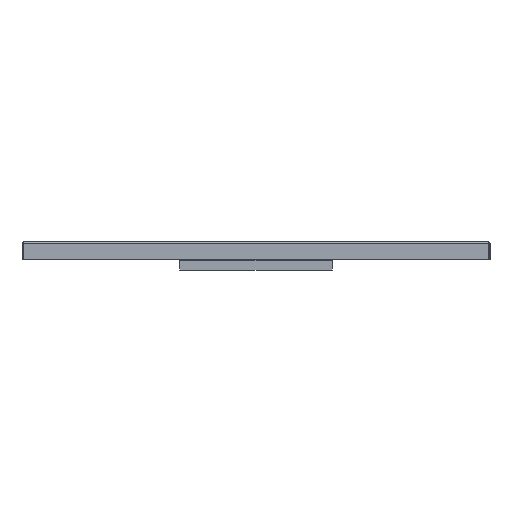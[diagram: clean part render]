
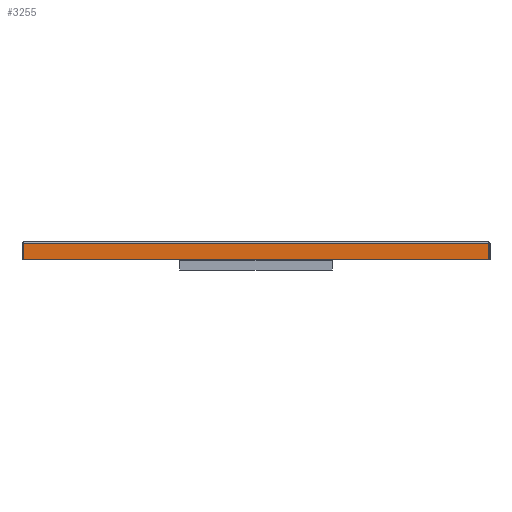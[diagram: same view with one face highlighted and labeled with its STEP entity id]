
A CAD part, left-side view. The second image highlights one B-rep face of the part: STEP entity #3255.
In plain terms, the highlighted planar face has unit normal (-1, 0, 0).
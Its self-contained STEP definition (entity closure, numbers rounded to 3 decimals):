
#70 = CARTESIAN_POINT ( 'NONE',  ( -84.056, 886.93, -2.006 ) ) ;
#95 = CARTESIAN_POINT ( 'NONE',  ( -84.056, 862.688, -2.053 ) ) ;
#123 = CARTESIAN_POINT ( 'NONE',  ( -84.056, 888.93, 0. ) ) ;
#349 = VECTOR ( 'NONE', #1320, 1000. ) ;
#800 = CARTESIAN_POINT ( 'NONE',  ( -84.056, 882.208, -2.013 ) ) ;
#857 = CARTESIAN_POINT ( 'NONE',  ( -84.056, 550.858, -2.072 ) ) ;
#919 = VERTEX_POINT ( 'NONE', #70 ) ;
#947 = FACE_OUTER_BOUND ( 'NONE', #7778, .T. ) ;
#1013 = VERTEX_POINT ( 'NONE', #8309 ) ;
#1036 = CARTESIAN_POINT ( 'NONE',  ( -84.056, 824.334, -2.09 ) ) ;
#1101 = CARTESIAN_POINT ( 'NONE',  ( -84.056, 95.682, -2.013 ) ) ;
#1320 = DIRECTION ( 'NONE',  ( 0., 0., 1. ) ) ;
#2114 = CARTESIAN_POINT ( 'NONE',  ( -84.056, 90.93, -2.006 ) ) ;
#2445 = VECTOR ( 'NONE', #7225, 1000. ) ;
#2464 = EDGE_CURVE ( 'NONE', #1013, #919, #4036, .T. ) ;
#2595 = LINE ( 'NONE', #5288, #2445 ) ;
#2879 = CARTESIAN_POINT ( 'NONE',  ( -84.056, 886.93, -2.006 ) ) ;
#2903 = EDGE_CURVE ( 'NONE', #919, #11223, #3524, .T. ) ;
#3255 = ADVANCED_FACE ( 'NONE', ( #947 ), #4543, .F. ) ;
#3524 = B_SPLINE_CURVE_WITH_KNOTS ( 'NONE', 3,
 ( #2879, #10802, #800, #7977, #95, #9037, #1036, #10739, #4393, #8034, #8920, #857, #11628, #3579, #10329, #5757, #7633, #7397, #8272, #5815, #9386, #1101, #10989, #2114 ),
 .UNSPECIFIED., .F., .F.,
 ( 4, 1, 1, 1, 1, 1, 1, 1, 1, 1, 1, 1, 1, 1, 1, 1, 1, 1, 1, 1, 1, 4 ),
 ( 2., 6.056, 12.112, 24.224, 42.391, 66.615, 84.783, 102.95, 148.37, 202.873, 311.88, 499.465, 629.633, 678.309, 702.647, 726.986, 751.324, 763.493, 781.746, 787.831, 793.916, 798. ),
 .UNSPECIFIED. ) ;
#3579 = CARTESIAN_POINT ( 'NONE',  ( -84.056, 286.462, -2.074 ) ) ;
#3622 = ORIENTED_EDGE ( 'NONE', *, *, #8484, .F. ) ;
#3640 = DIRECTION ( 'NONE',  ( 0., 0., -1. ) ) ;
#3720 = DIRECTION ( 'NONE',  ( 1., 0., 0. ) ) ;
#4036 = LINE ( 'NONE', #11324, #349 ) ;
#4393 = CARTESIAN_POINT ( 'NONE',  ( -84.056, 776.896, -2.08 ) ) ;
#4543 = PLANE ( 'NONE',  #5224 ) ;
#5224 = AXIS2_PLACEMENT_3D ( 'NONE', #123, #3720, #7301 ) ;
#5288 = CARTESIAN_POINT ( 'NONE',  ( -84.056, 90.93, -30. ) ) ;
#5757 = CARTESIAN_POINT ( 'NONE',  ( -84.056, 186.283, -2.082 ) ) ;
#5815 = CARTESIAN_POINT ( 'NONE',  ( -84.056, 111.24, -2.045 ) ) ;
#6332 = CARTESIAN_POINT ( 'NONE',  ( -84.056, 90.93, -30. ) ) ;
#6523 = LINE ( 'NONE', #8098, #6762 ) ;
#6762 = VECTOR ( 'NONE', #3640, 1000. ) ;
#7225 = DIRECTION ( 'NONE',  ( 0., 1., 0. ) ) ;
#7301 = DIRECTION ( 'NONE',  ( 0., 1., 0. ) ) ;
#7397 = CARTESIAN_POINT ( 'NONE',  ( -84.056, 141.663, -2.088 ) ) ;
#7633 = CARTESIAN_POINT ( 'NONE',  ( -84.056, 161.945, -2.088 ) ) ;
#7778 = EDGE_LOOP ( 'NONE', ( #3622, #11123, #9561, #11136 ) ) ;
#7977 = CARTESIAN_POINT ( 'NONE',  ( -84.056, 874.8, -2.029 ) ) ;
#8034 = CARTESIAN_POINT ( 'NONE',  ( -84.056, 737.533, -2.076 ) ) ;
#8098 = CARTESIAN_POINT ( 'NONE',  ( -84.056, 90.93, -2.006 ) ) ;
#8272 = CARTESIAN_POINT ( 'NONE',  ( -84.056, 123.41, -2.068 ) ) ;
#8309 = CARTESIAN_POINT ( 'NONE',  ( -84.056, 886.93, -30. ) ) ;
#8484 = EDGE_CURVE ( 'NONE', #11223, #9329, #6523, .T. ) ;
#8920 = CARTESIAN_POINT ( 'NONE',  ( -84.056, 667.89, -2.074 ) ) ;
#9037 = CARTESIAN_POINT ( 'NONE',  ( -84.056, 844.521, -2.083 ) ) ;
#9329 = VERTEX_POINT ( 'NONE', #6332 ) ;
#9386 = CARTESIAN_POINT ( 'NONE',  ( -84.056, 101.1, -2.025 ) ) ;
#9561 = ORIENTED_EDGE ( 'NONE', *, *, #2464, .F. ) ;
#9702 = CARTESIAN_POINT ( 'NONE',  ( -84.056, 90.93, -2.006 ) ) ;
#10195 = EDGE_CURVE ( 'NONE', #9329, #1013, #2595, .T. ) ;
#10329 = CARTESIAN_POINT ( 'NONE',  ( -84.056, 218.734, -2.078 ) ) ;
#10739 = CARTESIAN_POINT ( 'NONE',  ( -84.056, 804.148, -2.084 ) ) ;
#10802 = CARTESIAN_POINT ( 'NONE',  ( -84.056, 885.579, -2.008 ) ) ;
#10989 = CARTESIAN_POINT ( 'NONE',  ( -84.056, 92.292, -2.008 ) ) ;
#11123 = ORIENTED_EDGE ( 'NONE', *, *, #2903, .F. ) ;
#11136 = ORIENTED_EDGE ( 'NONE', *, *, #10195, .F. ) ;
#11223 = VERTEX_POINT ( 'NONE', #9702 ) ;
#11324 = CARTESIAN_POINT ( 'NONE',  ( -84.056, 886.93, -30. ) ) ;
#11628 = CARTESIAN_POINT ( 'NONE',  ( -84.056, 408.605, -2.073 ) ) ;
